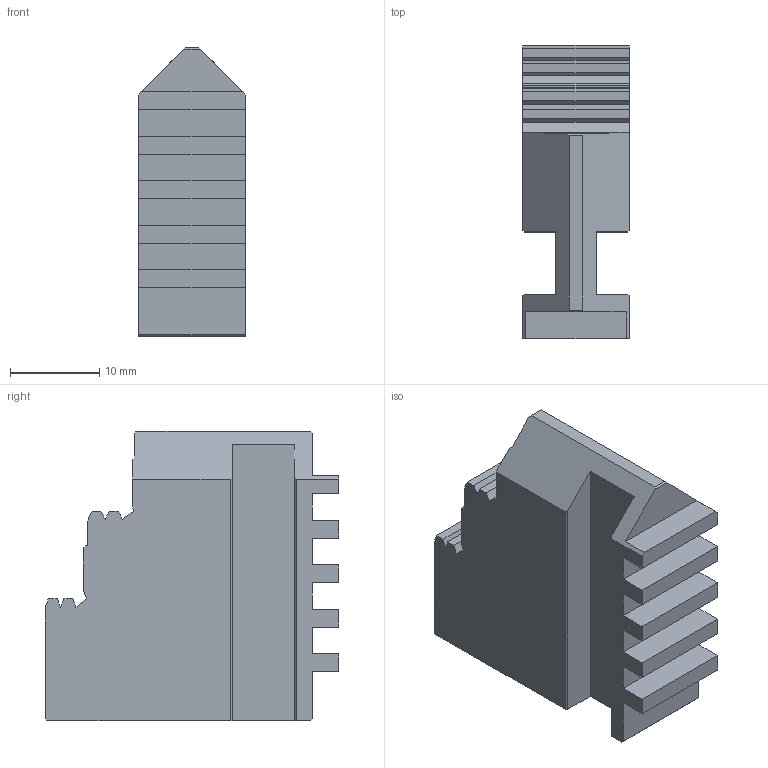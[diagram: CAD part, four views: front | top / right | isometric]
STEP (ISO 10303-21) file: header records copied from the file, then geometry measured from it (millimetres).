
FILE_DESCRIPTION(/* description */ (''),/* implementation_level */ '2;1');
FILE_NAME(/* name */ '',/* time_stamp */ '2025-10-17T09:54:14+03:00',/* author */ ('Arina Rekina'),/* organization */ (''),/* preprocessor_version */ 'ST-DEVELOPER v19.2',/* originating_system */ 'Autodesk Inventor 2024',/* authorisation */ '');
FILE_SCHEMA (('AUTOMOTIVE_DESIGN { 1 0 10303 214 3 1 1 }'));
Length unit declared in the file: millimetre
Products named in the file (1): Часть 2
Bounding box: 12 x 33 x 32.5 mm (x, y, z)
Volume: 8338.6 mm3; surface area: 3806.8 mm2
Topology: 1 solids, 1 shells, 69 faces, 201 edges, 134 vertices
Faces by surface type: plane 69
Entity records: 2272 total; most frequent: CARTESIAN_POINT 405, ORIENTED_EDGE 402, DIRECTION 341, LINE 201, VECTOR 201, EDGE_CURVE 201, VERTEX_POINT 134, AXIS2_PLACEMENT_3D 70
